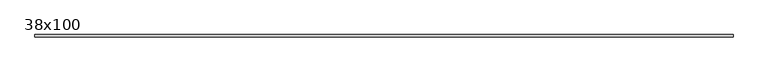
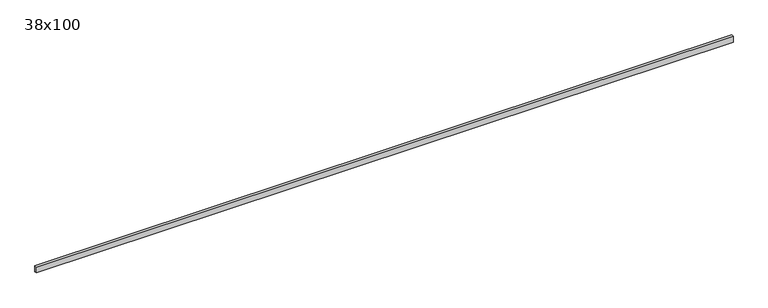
"""IFC4 building model written with IfcOpenShell, lengths in millimetres: beam geometry, Poutre - Bois de construction de dimensions courantes : 38x100."""

from ifc_helpers import new_model, si_unit, frame, origin, place, context, project, spatial, polyline, outline, extrude, source, transform, mapped, element, save


def beam_38x100_0451ba1d(model_context):
    return source(origin(), model_context, "Body", "SweptSolid", [
        extrude(outline(polyline([(5534.0, 19.05), (5534.0, -19.05), (-5601.0, -19.05), (-5601.0, 19.05), (5534.0, 19.05)])), frame((0.0, 0.0, -50.0), z_axis=(0.0, 0.0, 1.0), x_axis=(1.0, 0.0, 0.0)), (0.0, 0.0, 1.0), 100.0),
    ])


if __name__ == "__main__":
    model = new_model("IFC4")
    model_context = context("Model", 3, world=origin())
    ifc_project = project(units=[si_unit("LENGTHUNIT", "METRE", prefix="MILLI")], contexts=[model_context])
    site = spatial("IfcSite", under=ifc_project)
    building = spatial("IfcBuilding", under=site)
    placement = place(None, origin())
    beam_38x100_shape = beam_38x100_0451ba1d(model_context)
    element("IfcBeam", 1, ObjectType="Poutre - Bois de construction de dimensions courantes : 38x100", at=placement, inside=building, context=model_context, shape_type="MappedRepresentation", body=[
        mapped(beam_38x100_shape, transform((0.0, 0.0, 0.0), x_axis=(1.0, 0.0, 0.0), y_axis=(0.0, 1.0, 0.0), z_axis=(0.0, 0.0, 1.0))),
    ])
    save(model, "model.ifc")
